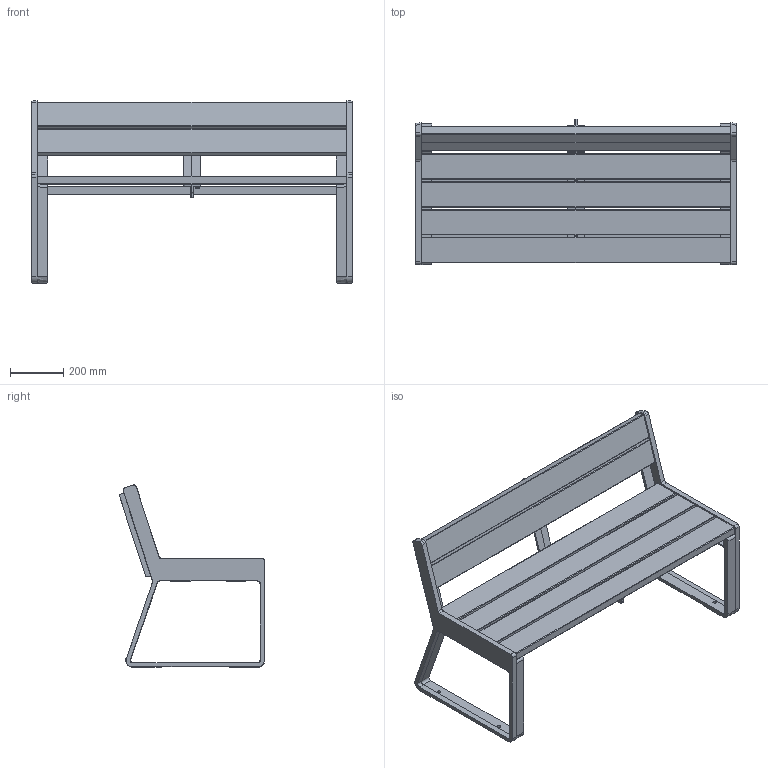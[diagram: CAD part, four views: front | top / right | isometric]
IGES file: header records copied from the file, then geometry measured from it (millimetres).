
Global section: file name: 01ハイバックベンチHB31-12,35HAutoCAD 2025; native system: - 日本語 (Japanese); preprocessor: Autodesk Translation Framework DWG producer (atf_dwg_producer); organization: unknown; date: 20250107.082706; units: millimetre
Bounding box: 1200 x 544.25 x 682.29 mm (x, y, z)
Volume: 26345353 mm3; surface area: 6354014.9 mm2
Topology: 93 solids, 93 shells, 1630 faces, 4000 edges, 2526 vertices
Faces by surface type: bspline 1630
